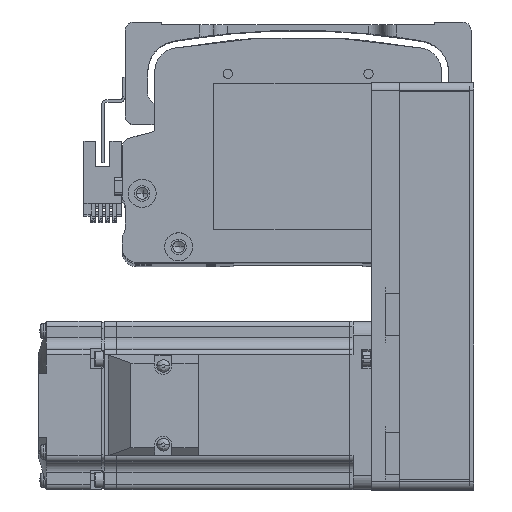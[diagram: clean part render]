
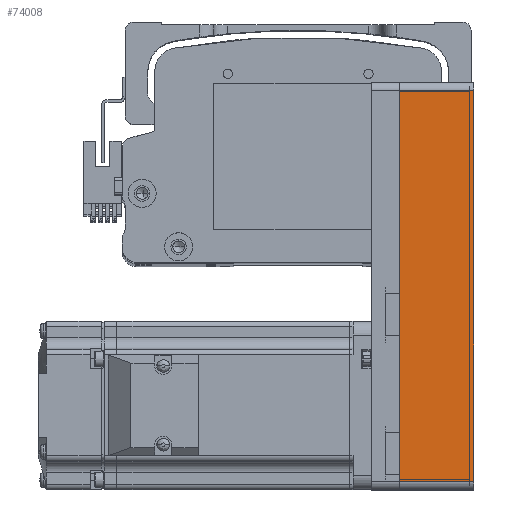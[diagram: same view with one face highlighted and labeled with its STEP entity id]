
A CAD part, top view. The second image highlights one B-rep face of the part: STEP entity #74008.
In plain terms, the highlighted planar face has unit normal (0, 0, 1) as drawn and (0, -1, 0) by its records, which use the part's own axes.
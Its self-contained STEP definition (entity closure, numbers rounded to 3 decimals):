
#4833 = EDGE_LOOP ( 'NONE', ( #46608, #68268, #71234, #14044 ) ) ;
#6707 = EDGE_CURVE ( 'NONE', #17425, #75195, #50340, .T. ) ;
#6860 = VECTOR ( 'NONE', #56689, 1000. ) ;
#8179 = CARTESIAN_POINT ( 'NONE',  ( 72.5, -30., 26.5 ) ) ;
#8459 = DIRECTION ( 'NONE',  ( 1., 0., 0. ) ) ;
#10129 = CARTESIAN_POINT ( 'NONE',  ( 69.5, -30., 26.5 ) ) ;
#11514 = CARTESIAN_POINT ( 'NONE',  ( -69.5, -30., 26.5 ) ) ;
#12020 = EDGE_CURVE ( 'NONE', #21894, #13613, #77110, .T. ) ;
#13482 = AXIS2_PLACEMENT_3D ( 'NONE', #63356, #25639, #69705 ) ;
#13613 = VERTEX_POINT ( 'NONE', #49994 ) ;
#14044 = ORIENTED_EDGE ( 'NONE', *, *, #42276, .T. ) ;
#17425 = VERTEX_POINT ( 'NONE', #59885 ) ;
#17737 = CARTESIAN_POINT ( 'NONE',  ( -69.5, -30., 0. ) ) ;
#21894 = VERTEX_POINT ( 'NONE', #17737 ) ;
#25358 = PLANE ( 'NONE',  #13482 ) ;
#25639 = DIRECTION ( 'NONE',  ( 0., 1., 0. ) ) ;
#26724 = VECTOR ( 'NONE', #30216, 1000. ) ;
#30216 = DIRECTION ( 'NONE',  ( 0., 0., -1. ) ) ;
#33584 = VECTOR ( 'NONE', #8459, 1000. ) ;
#41030 = CARTESIAN_POINT ( 'NONE',  ( 72.5, -30., 0. ) ) ;
#41620 = VECTOR ( 'NONE', #47402, 1000. ) ;
#42276 = EDGE_CURVE ( 'NONE', #17425, #21894, #60227, .T. ) ;
#46608 = ORIENTED_EDGE ( 'NONE', *, *, #12020, .T. ) ;
#47402 = DIRECTION ( 'NONE',  ( 1., 0., 0. ) ) ;
#49994 = CARTESIAN_POINT ( 'NONE',  ( 69.5, -30., 0. ) ) ;
#50340 = LINE ( 'NONE', #8179, #33584 ) ;
#51834 = EDGE_CURVE ( 'NONE', #13613, #75195, #73895, .T. ) ;
#56689 = DIRECTION ( 'NONE',  ( 0., 0., 1. ) ) ;
#59885 = CARTESIAN_POINT ( 'NONE',  ( -69.5, -30., 26.5 ) ) ;
#60227 = LINE ( 'NONE', #11514, #26724 ) ;
#63356 = CARTESIAN_POINT ( 'NONE',  ( 72.5, -30., 26.5 ) ) ;
#68268 = ORIENTED_EDGE ( 'NONE', *, *, #51834, .T. ) ;
#69219 = FACE_OUTER_BOUND ( 'NONE', #4833, .T. ) ;
#69363 = CARTESIAN_POINT ( 'NONE',  ( 69.5, -30., 26.5 ) ) ;
#69705 = DIRECTION ( 'NONE',  ( -1., 0., 0. ) ) ;
#71234 = ORIENTED_EDGE ( 'NONE', *, *, #6707, .F. ) ;
#73895 = LINE ( 'NONE', #69363, #6860 ) ;
#74008 = ADVANCED_FACE ( 'NONE', ( #69219 ), #25358, .F. ) ;
#75195 = VERTEX_POINT ( 'NONE', #10129 ) ;
#77110 = LINE ( 'NONE', #41030, #41620 ) ;
